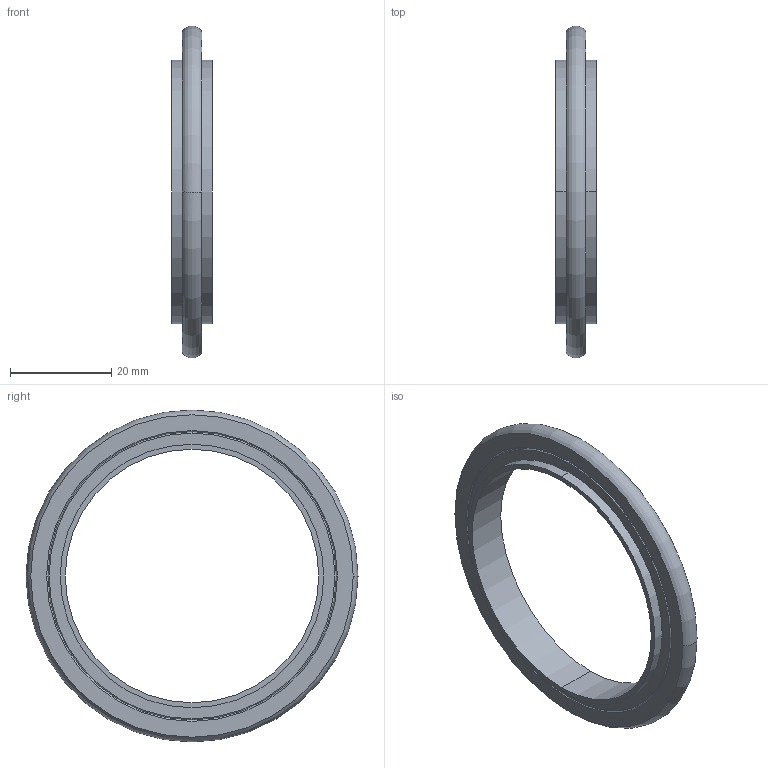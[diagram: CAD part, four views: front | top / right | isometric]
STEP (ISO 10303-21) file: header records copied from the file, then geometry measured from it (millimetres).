
FILE_DESCRIPTION((''),'2;1');
FILE_NAME('88325_SW0003','2015-09-29T',('L0100062'),('Copyright by Leybold GmbH'),'PRO/ENGINEER BY PARAMETRIC TECHNOLOGY CORPORATION, 2015030','PRO/ENGINEER BY PARAMETRIC TECHNOLOGY CORPORATION, 2015030','');
FILE_SCHEMA(('AUTOMOTIVE_DESIGN { 1 0 10303 214 1 1 1 1 }'));
Length unit declared in the file: millimetre
Products named in the file (1): 88325_SW0003
Bounding box: 8 x 65.5 x 65.5 mm (x, y, z)
Volume: 5897.6 mm3; surface area: 5426.7 mm2
Topology: 1 solids, 1 shells, 22 faces, 48 edges, 32 vertices
Faces by surface type: plane 6, cylinder 6, revolution 6, torus 4
Entity records: 1034 total; most frequent: CARTESIAN_POINT 178, DIRECTION 116, ORIENTED_EDGE 96, AXIS2_PLACEMENT_3D 52, EDGE_CURVE 48, COLOUR_RGB 47, FILL_AREA_STYLE_COLOUR 36, FILL_AREA_STYLE 36
